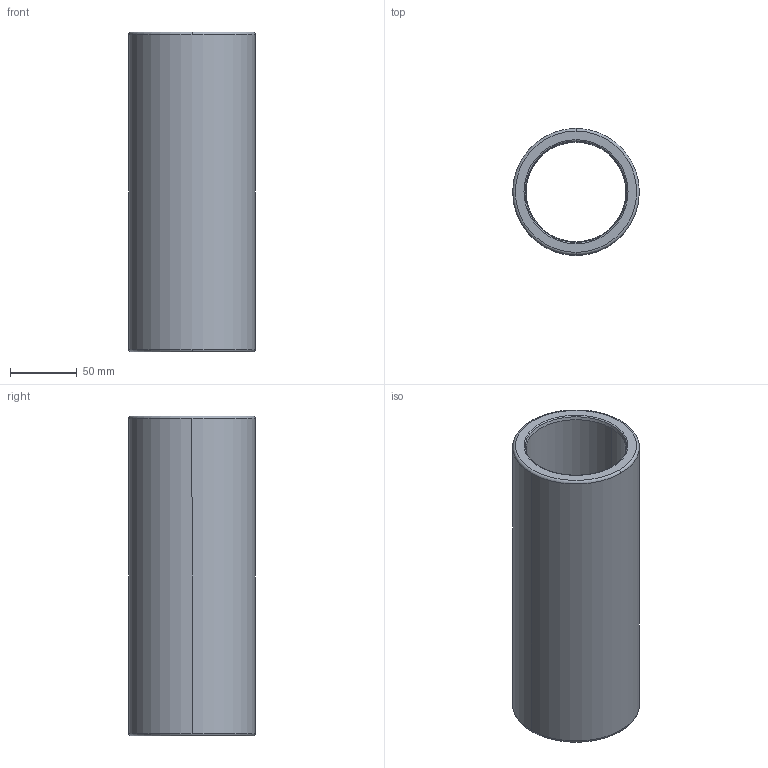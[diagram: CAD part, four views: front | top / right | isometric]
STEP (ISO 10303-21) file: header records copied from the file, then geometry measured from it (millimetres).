
FILE_DESCRIPTION((''),'2;1');
FILE_NAME('B30_063_250.stp','2009-01-12T10:42:26',(''),(''),'Mechanical Desktop 2009','Mechanical Desktop 2009',', , ');
FILE_SCHEMA(('CONFIG_CONTROL_DESIGN'));
Length unit declared in the file: millimetre
Products named in the file (2): Product; blmdl1
Assembly tree (1 placements, depth 2):
  Product
    blmdl1
Bounding box: 94.98 x 94.98 x 240 mm (x, y, z)
Volume: 640235.1 mm3; surface area: 132539.3 mm2
Topology: 1 solids, 1 shells, 18 faces, 48 edges, 32 vertices
Faces by surface type: torus 8, cylinder 4, cone 4, plane 2
Entity records: 705 total; most frequent: DIRECTION 128, CARTESIAN_POINT 100, ORIENTED_EDGE 96, AXIS2_PLACEMENT_3D 60, EDGE_CURVE 48, CIRCLE 40, VERTEX_POINT 32, EDGE_LOOP 20
